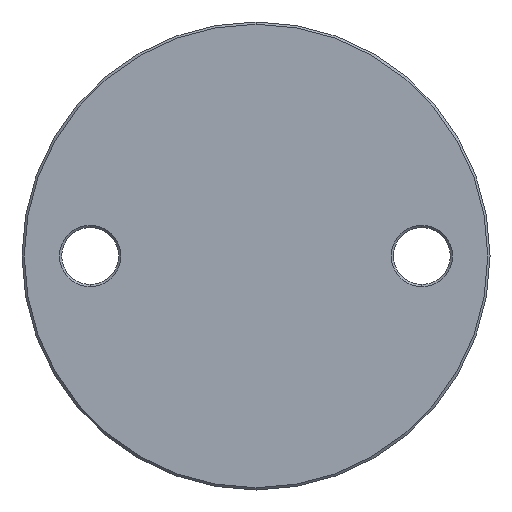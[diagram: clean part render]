
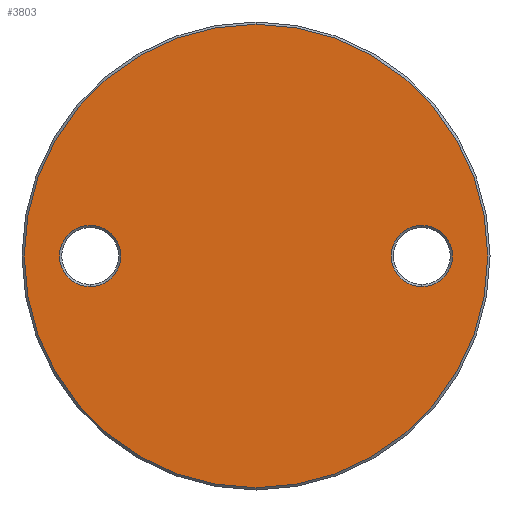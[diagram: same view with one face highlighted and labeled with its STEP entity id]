
A CAD part, front view. The second image highlights one B-rep face of the part: STEP entity #3803.
In plain terms, the highlighted planar face has unit normal (0, -1, 0).
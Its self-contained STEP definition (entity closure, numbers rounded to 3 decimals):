
#65 = CARTESIAN_POINT ( 'NONE',  ( -36.5, -3., 0. ) ) ;
#117 = CARTESIAN_POINT ( 'NONE',  ( 36.5, -3., 0. ) ) ;
#299 = FACE_BOUND ( 'NONE', #1325, .T. ) ;
#363 = FACE_BOUND ( 'NONE', #4589, .T. ) ;
#384 = ORIENTED_EDGE ( 'NONE', *, *, #2733, .T. ) ;
#504 = ORIENTED_EDGE ( 'NONE', *, *, #727, .T. ) ;
#727 = EDGE_CURVE ( 'NONE', #2225, #2626, #1757, .T. ) ;
#763 = DIRECTION ( 'NONE',  ( 0., -1., 0. ) ) ;
#853 = DIRECTION ( 'NONE',  ( 0., 0., -1. ) ) ;
#904 = DIRECTION ( 'NONE',  ( 0., 1., 0. ) ) ;
#976 = AXIS2_PLACEMENT_3D ( 'NONE', #117, #904, #3755 ) ;
#1018 = PLANE ( 'NONE',  #2259 ) ;
#1097 = VERTEX_POINT ( 'NONE', #1241 ) ;
#1148 = DIRECTION ( 'NONE',  ( 0., 1., 0. ) ) ;
#1163 = VERTEX_POINT ( 'NONE', #4617 ) ;
#1173 = DIRECTION ( 'NONE',  ( 0., 0., -1. ) ) ;
#1241 = CARTESIAN_POINT ( 'NONE',  ( -36.5, -3., 6.75 ) ) ;
#1274 = EDGE_CURVE ( 'NONE', #1163, #4809, #1688, .T. ) ;
#1325 = EDGE_LOOP ( 'NONE', ( #4381, #5042 ) ) ;
#1543 = VERTEX_POINT ( 'NONE', #3690 ) ;
#1587 = DIRECTION ( 'NONE',  ( 0., 0., -1. ) ) ;
#1642 = DIRECTION ( 'NONE',  ( 0., 0., -1. ) ) ;
#1688 = CIRCLE ( 'NONE', #976, 6.75 ) ;
#1757 = CIRCLE ( 'NONE', #2757, 51. ) ;
#1841 = ORIENTED_EDGE ( 'NONE', *, *, #4158, .T. ) ;
#1852 = DIRECTION ( 'NONE',  ( 0., -1., 0. ) ) ;
#1894 = FACE_OUTER_BOUND ( 'NONE', #4773, .T. ) ;
#1993 = DIRECTION ( 'NONE',  ( 0., 1., 0. ) ) ;
#2104 = CIRCLE ( 'NONE', #4043, 6.75 ) ;
#2225 = VERTEX_POINT ( 'NONE', #5047 ) ;
#2252 = DIRECTION ( 'NONE',  ( 0., 0., -1. ) ) ;
#2259 = AXIS2_PLACEMENT_3D ( 'NONE', #3856, #4261, #3035 ) ;
#2467 = CARTESIAN_POINT ( 'NONE',  ( -36.5, -3., 0. ) ) ;
#2626 = VERTEX_POINT ( 'NONE', #4031 ) ;
#2688 = EDGE_CURVE ( 'NONE', #4809, #1163, #2104, .T. ) ;
#2733 = EDGE_CURVE ( 'NONE', #1543, #1097, #2935, .T. ) ;
#2757 = AXIS2_PLACEMENT_3D ( 'NONE', #4263, #1852, #2252 ) ;
#2907 = CIRCLE ( 'NONE', #4668, 51. ) ;
#2935 = CIRCLE ( 'NONE', #3077, 6.75 ) ;
#3035 = DIRECTION ( 'NONE',  ( 0., 0., -1. ) ) ;
#3077 = AXIS2_PLACEMENT_3D ( 'NONE', #65, #4909, #853 ) ;
#3690 = CARTESIAN_POINT ( 'NONE',  ( -36.5, -3., -6.75 ) ) ;
#3755 = DIRECTION ( 'NONE',  ( 0., 0., -1. ) ) ;
#3759 = ORIENTED_EDGE ( 'NONE', *, *, #5104, .T. ) ;
#3803 = ADVANCED_FACE ( 'NONE', ( #299, #363, #1894 ), #1018, .T. ) ;
#3856 = CARTESIAN_POINT ( 'NONE',  ( 0., -3., 51.5 ) ) ;
#4031 = CARTESIAN_POINT ( 'NONE',  ( 0., -3., 51. ) ) ;
#4043 = AXIS2_PLACEMENT_3D ( 'NONE', #5198, #1148, #1587 ) ;
#4115 = CIRCLE ( 'NONE', #4592, 6.75 ) ;
#4158 = EDGE_CURVE ( 'NONE', #1097, #1543, #4115, .T. ) ;
#4261 = DIRECTION ( 'NONE',  ( 0., -1., 0. ) ) ;
#4263 = CARTESIAN_POINT ( 'NONE',  ( 0., -3., 0. ) ) ;
#4381 = ORIENTED_EDGE ( 'NONE', *, *, #2688, .T. ) ;
#4589 = EDGE_LOOP ( 'NONE', ( #384, #1841 ) ) ;
#4592 = AXIS2_PLACEMENT_3D ( 'NONE', #2467, #1993, #1642 ) ;
#4617 = CARTESIAN_POINT ( 'NONE',  ( 36.5, -3., 6.75 ) ) ;
#4668 = AXIS2_PLACEMENT_3D ( 'NONE', #4835, #763, #1173 ) ;
#4773 = EDGE_LOOP ( 'NONE', ( #3759, #504 ) ) ;
#4809 = VERTEX_POINT ( 'NONE', #5120 ) ;
#4835 = CARTESIAN_POINT ( 'NONE',  ( 0., -3., 0. ) ) ;
#4909 = DIRECTION ( 'NONE',  ( 0., 1., 0. ) ) ;
#5042 = ORIENTED_EDGE ( 'NONE', *, *, #1274, .T. ) ;
#5047 = CARTESIAN_POINT ( 'NONE',  ( 0., -3., -51. ) ) ;
#5104 = EDGE_CURVE ( 'NONE', #2626, #2225, #2907, .T. ) ;
#5120 = CARTESIAN_POINT ( 'NONE',  ( 36.5, -3., -6.75 ) ) ;
#5198 = CARTESIAN_POINT ( 'NONE',  ( 36.5, -3., 0. ) ) ;
